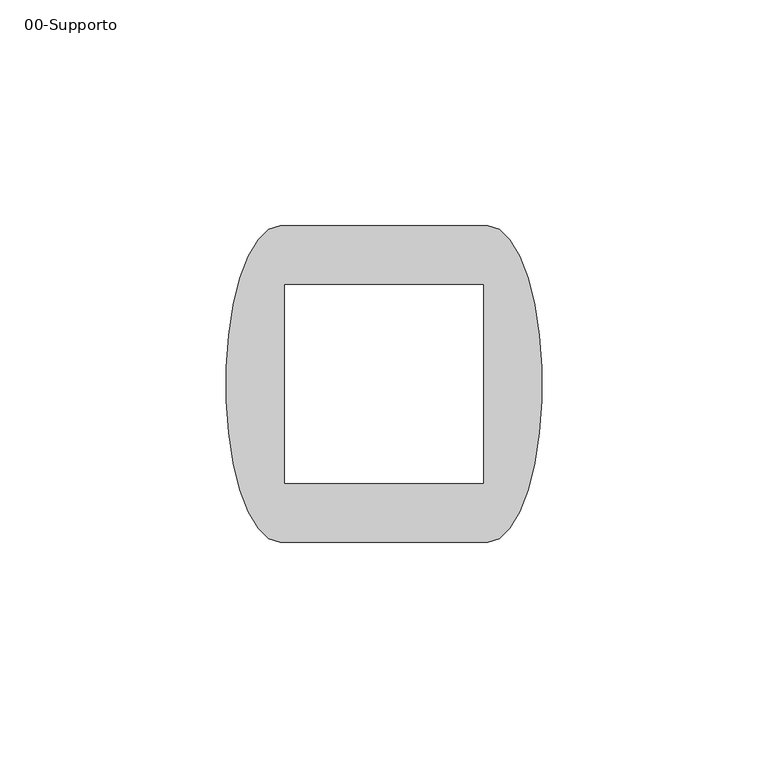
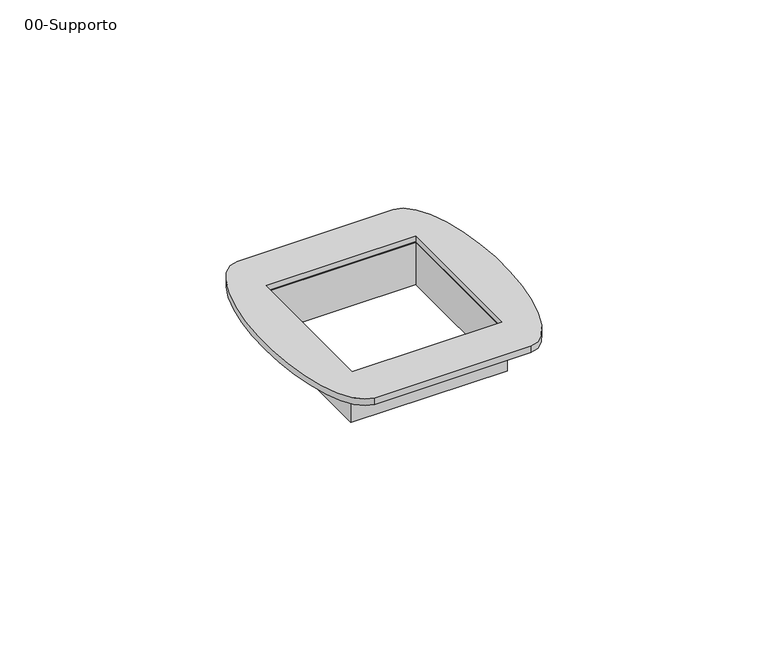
"""IFC4 building model written with IfcOpenShell, lengths in millimetres: proxy geometry, 00-Supporto : Supporto 2 moduli."""

from ifc_helpers import new_model, si_unit, point, frame, origin, place, context, project, spatial, polyline, ellipse_curve, trimmed, outline, extrude, source, transform, mapped, element, save
from ifc_brep_helpers import plane_surface, extruded_surface, advanced_brep


def proxy_00_supporto_f49463ef(model_context):
    return source(origin(), model_context, "Body", "SolidModel", [
        extrude(outline(polyline([(23.0, -23.0), (-23.0, -23.0), (-23.0, 23.0), (23.0, 23.0), (23.0, -23.0)]), holes=[polyline([(-22.0, 22.0), (-22.0, -22.0), (22.0, -22.0), (22.0, 22.0), (-22.0, 22.0)])]), frame((0.0, 0.0, -13.0), z_axis=(0.0, 0.0, 1.0), x_axis=(1.0, 0.0, 0.0)), (0.0, 0.0, 1.0), 13.0),
        advanced_brep(
        [(23.0, 35.0, 2.0), (-23.0, 35.0, 2.0), (-23.0, -35.0, 2.0), (23.0, -35.0, 2.0), (-22.0, -22.0, 2.0), (-22.0, 22.0, 2.0), (22.0, 22.0, 2.0), (22.0, -22.0, 2.0), (23.0, 35.0, 0.0), (23.0, -35.0, 0.0), (-23.0, -35.0, 0.0), (-23.0, 35.0, 0.0), (-22.0, -22.0, 0.0), (22.0, -22.0, 0.0), (22.0, 22.0, 0.0), (-22.0, 22.0, 0.0)],
        [
            (0, 1),
            (1, 2, ellipse_curve(frame((-23.0, 0.0, 2.0), z_axis=(0.0, 0.0, 1.0), x_axis=(0.0, -1.0, 0.0)), 35.0, 12.0)),
            (2, 3),
            (3, 0, ellipse_curve(frame((23.0, 0.0, 2.0), z_axis=(0.0, 0.0, 1.0), x_axis=(0.0, 1.0, 0.0)), 35.0, 12.0)),
            (4, 5),
            (5, 6),
            (6, 7),
            (7, 4),
            (8, 9, ellipse_curve(frame((23.0, 0.0, 0.0), z_axis=(0.0, 0.0, -1.0), x_axis=(0.0, 1.0, 0.0)), 35.0, 12.0)),
            (9, 10),
            (10, 11, ellipse_curve(frame((-23.0, 0.0, 0.0), z_axis=(0.0, 0.0, -1.0), x_axis=(0.0, -1.0, 0.0)), 35.0, 12.0)),
            (11, 8),
            (12, 13),
            (13, 14),
            (14, 15),
            (15, 12),
            (0, 8),
            (11, 1),
            (2, 10),
            (9, 3),
            (4, 12),
            (15, 5),
            (14, 6),
            (13, 7),
        ],
        [
            plane_surface(frame((-23.0, 35.0, 2.0), z_axis=(0.0, 0.0, 1.0), x_axis=(-1.0, 0.0, 0.0))),
            plane_surface(frame((-23.0, 35.0, 0.0), z_axis=(0.0, 0.0, -1.0), x_axis=(1.0, 0.0, 0.0))),
            plane_surface(frame((23.0, 35.0, 2.0), z_axis=(0.0, 1.0, 0.0), x_axis=(0.0, 0.0, -1.0))),
            plane_surface(frame((-23.0, -35.0, 2.0), z_axis=(0.0, -1.0, 0.0), x_axis=(0.0, 0.0, -1.0))),
            plane_surface(frame((-22.0, -22.0, 2.0), z_axis=(1.0, 0.0, 0.0), x_axis=(0.0, 0.0, -1.0))),
            plane_surface(frame((-22.0, 22.0, 2.0), z_axis=(0.0, -1.0, 0.0), x_axis=(0.0, 0.0, -1.0))),
            plane_surface(frame((22.0, 22.0, 2.0), z_axis=(-1.0, 0.0, 0.0), x_axis=(0.0, 0.0, -1.0))),
            plane_surface(frame((22.0, -22.0, 2.0), z_axis=(0.0, 1.0, 0.0), x_axis=(0.0, 0.0, -1.0))),
            extruded_surface(trimmed(ellipse_curve(frame((23.0, 0.0, -2.0), z_axis=(0.0, 0.0, 1.0), x_axis=(0.0, 1.0, 0.0)), 35.0, 12.0), [point((23.0, -35.0, -2.0))], [point((23.0, 35.0, -2.0))], True, "CARTESIAN"), (0.0, 0.0, 2.0), 2.0),
            extruded_surface(trimmed(ellipse_curve(frame((-23.0, 0.0, -2.0), z_axis=(0.0, 0.0, 1.0), x_axis=(0.0, -1.0, 0.0)), 35.0, 12.0), [point((-23.0, 35.0, -2.0))], [point((-23.0, -35.0, -2.0))], True, "CARTESIAN"), (0.0, 0.0, 2.0), 2.0),
        ],
        [
            (0, [[1, 2, 3, 4], [5, 6, 7, 8]]),
            (1, [[9, 10, 11, 12], [13, 14, 15, 16]]),
            (2, [[-1, 17, -12, 18]]),
            (3, [[-3, 19, -10, 20]]),
            (4, [[-5, 21, -16, 22]]),
            (5, [[-6, -22, -15, 23]]),
            (6, [[-7, -23, -14, 24]]),
            (7, [[-8, -24, -13, -21]]),
            (8, [[-4, -20, -9, -17]]),
            (9, [[-2, -18, -11, -19]]),
        ],
    ),
    ])


if __name__ == "__main__":
    model = new_model("IFC4")
    model_context = context("Model", 3, world=origin())
    ifc_project = project(units=[si_unit("LENGTHUNIT", "METRE", prefix="MILLI")], contexts=[model_context])
    site = spatial("IfcSite", under=ifc_project)
    building = spatial("IfcBuilding", under=site)
    placement = place(None, origin())
    proxy_00_supporto_shape = proxy_00_supporto_f49463ef(model_context)
    element("IfcBuildingElementProxy", 1, Name="00-Supporto : Supporto 2 moduli", ObjectType="00-Supporto : Supporto 2 moduli", at=placement, inside=building, context=model_context, shape_type="MappedRepresentation", body=[
        mapped(proxy_00_supporto_shape, transform((0.0, 0.0, 0.0), x_axis=(1.0, 0.0, 0.0), y_axis=(0.0, 1.0, 0.0), z_axis=(0.0, 0.0, 1.0))),
    ])
    save(model, "model.ifc")
